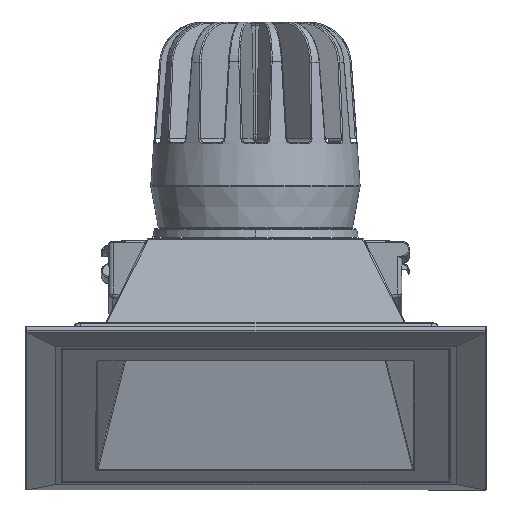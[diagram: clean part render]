
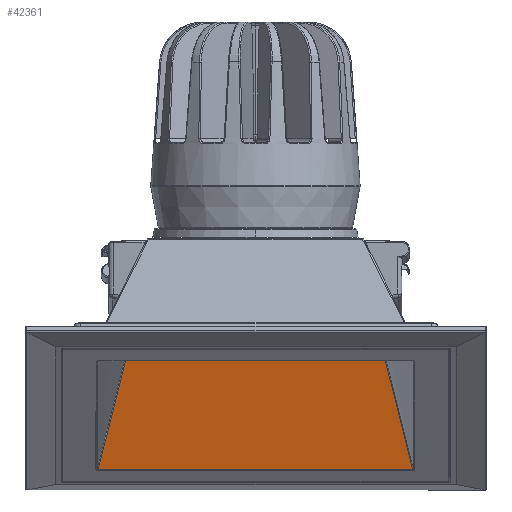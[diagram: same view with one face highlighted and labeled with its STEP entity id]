
A CAD part, top view. The second image highlights one B-rep face of the part: STEP entity #42361.
In plain terms, the highlighted planar face has unit normal (0, -0.243, 0.97).
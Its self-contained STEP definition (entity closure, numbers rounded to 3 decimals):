
#31620=CARTESIAN_POINT('',(36.498,-55.793,
-36.723));
#31621=CARTESIAN_POINT('',(35.551,-52.031,
-35.781));
#31622=CARTESIAN_POINT('',(33.745,-44.852,
-33.983));
#31623=CARTESIAN_POINT('',(31.311,-35.18,
-31.56));
#31624=CARTESIAN_POINT('',(29.101,-26.401,
-29.361));
#31625=CARTESIAN_POINT('',(27.085,-18.395,
-27.356));
#31626=CARTESIAN_POINT('',(25.24,-11.069,
-25.521));
#31627=CARTESIAN_POINT('',(24.107,-6.573,
-24.394));
#31628=CARTESIAN_POINT('',(23.566,-4.427,
-23.857));
#31630=DIRECTION('',(-1.,0.,0.));
#31631=VECTOR('',#31630,72.996);
#31632=CARTESIAN_POINT('',(36.498,-55.793,
-36.723));
#31633=LINE('',#31632,#31631);
#31634=CARTESIAN_POINT('',(-36.498,-55.793,
-36.723));
#31635=CARTESIAN_POINT('',(-35.552,-52.032,
-35.781));
#31636=CARTESIAN_POINT('',(-33.745,-44.852,
-33.983));
#31637=CARTESIAN_POINT('',(-31.311,-35.181,
-31.56));
#31638=CARTESIAN_POINT('',(-29.101,-26.403,
-29.361));
#31639=CARTESIAN_POINT('',(-27.085,-18.396,
-27.356));
#31640=CARTESIAN_POINT('',(-25.24,-11.07,
-25.521));
#31641=CARTESIAN_POINT('',(-24.107,-6.573,
-24.394));
#31642=CARTESIAN_POINT('',(-23.566,-4.427,
-23.857));
#31644=DIRECTION('',(1.,0.,0.));
#31645=VECTOR('',#31644,47.132);
#31646=CARTESIAN_POINT('',(-23.566,-4.427,
-23.857));
#31647=LINE('',#31646,#31645);
#39478=VERTEX_POINT('',#31620);
#39479=VERTEX_POINT('',#31628);
#39486=CARTESIAN_POINT('',(-23.566,-4.427,
-23.857));
#39487=VERTEX_POINT('',#39486);
#39490=VERTEX_POINT('',#31634);
#42346=CARTESIAN_POINT('',(0.,-30.074,-30.281));
#42347=DIRECTION('',(0.,-0.243,0.97));
#42348=DIRECTION('',(-1.,0.,0.));
#42349=AXIS2_PLACEMENT_3D('',#42346,#42347,#42348);
#42350=PLANE('',#42349);
#42352=ORIENTED_EDGE('',*,*,#42351,.F.);
#42354=ORIENTED_EDGE('',*,*,#42353,.T.);
#42356=ORIENTED_EDGE('',*,*,#42355,.T.);
#42358=ORIENTED_EDGE('',*,*,#42357,.T.);
#42359=EDGE_LOOP('',(#42352,#42354,#42356,#42358));
#42360=FACE_OUTER_BOUND('',#42359,.F.);
#42361=ADVANCED_FACE('',(#42360),#42350,.T.);
#31629=B_SPLINE_CURVE_WITH_KNOTS('',3,(#31620,#31621,#31622,#31623,#31624,
#31625,#31626,#31627,#31628),.UNSPECIFIED.,.F.,.F.,(4,1,1,1,1,1,4),(0.,
0.167,0.333,0.5,0.667,0.833,
1.),.UNSPECIFIED.);
#31643=B_SPLINE_CURVE_WITH_KNOTS('',3,(#31634,#31635,#31636,#31637,#31638,
#31639,#31640,#31641,#31642),.UNSPECIFIED.,.F.,.F.,(4,1,1,1,1,1,4),(0.,
0.167,0.333,0.5,0.667,0.833,
1.),.UNSPECIFIED.);
#42351=EDGE_CURVE('',#39478,#39479,#31629,.T.);
#42353=EDGE_CURVE('',#39478,#39490,#31633,.T.);
#42355=EDGE_CURVE('',#39490,#39487,#31643,.T.);
#42357=EDGE_CURVE('',#39487,#39479,#31647,.T.);
